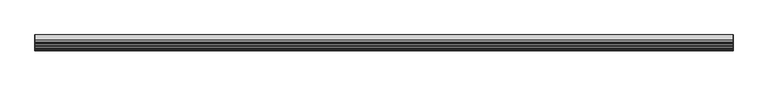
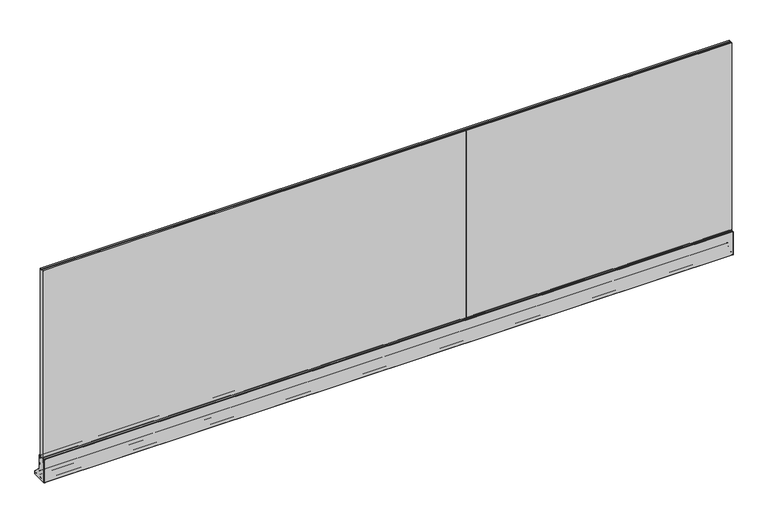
"""IFC4 building model written with IfcOpenShell, lengths in millimetres: railing geometry, Glass Rail EXL-12481 h=1100mm."""

from ifc_helpers import new_model, si_unit, point, frame, frame_2d, origin, place, context, project, spatial, polyline, circle_curve, trimmed, segment, composite_curve, outline, extrude, source, transform, mapped, element, save


def railing_b5ce3a73(model_context):
    return source(origin(), model_context, "Body", "SweptSolid", [
        extrude(outline(composite_curve([segment(trimmed(circle_curve(frame_2d((5268.7467075, 4319.5)), 0.5), [point((5268.7467075, 4320.0))], [point((5268.7467075, 4319.0))], False, "CARTESIAN"), True, "CONTINUOUS"), segment(polyline([(5268.7467075, 4319.0), (5268.7467075, 4300.0), (5267.7467075, 4299.4226497), (5271.5467075, 4276.5), (5271.5467075, 4211.0)]), True, "CONTINUOUS"), segment(trimmed(circle_curve(frame_2d((5272.5467075, 4211.0)), 1.0), [point((5271.5467075, 4211.0))], [point((5272.5467075, 4210.0))], True, "CARTESIAN"), True, "CONTINUOUS"), segment(polyline([(5272.5467075, 4210.0), (5295.5467075, 4210.0)]), True, "CONTINUOUS"), segment(trimmed(circle_curve(frame_2d((5295.5467075, 4211.0)), 1.0), [point((5295.5467075, 4210.0))], [point((5296.5467075, 4211.0))], True, "CARTESIAN"), True, "CONTINUOUS"), segment(polyline([(5296.5467075, 4211.0), (5296.5467075, 4230.0), (5300.5467075, 4319.0)]), True, "CONTINUOUS"), segment(trimmed(circle_curve(frame_2d((5300.5467075, 4319.5)), 0.5), [point((5300.5467075, 4319.0))], [point((5300.5467075, 4320.0))], False, "CARTESIAN"), True, "CONTINUOUS"), segment(polyline([(5300.5467075, 4320.0), (5304.0467075, 4320.0)]), True, "CONTINUOUS"), segment(trimmed(circle_curve(frame_2d((5304.0467075, 4319.0)), 1.0), [point((5304.0467075, 4320.0))], [point((5305.0467075, 4319.0))], False, "CARTESIAN"), True, "CONTINUOUS"), segment(polyline([(5305.0467075, 4319.0), (5305.0467075, 4240.6529004), (5308.0416822, 4237.6579257), (5308.0416822, 4233.415285), (5305.9002609, 4235.5567063)]), True, "CONTINUOUS"), segment(trimmed(circle_curve(frame_2d((5305.5467075, 4235.2031529)), 0.5), [point((5305.9002609, 4235.5567063))], [point((5305.0467075, 4235.2031529))], True, "CARTESIAN"), True, "CONTINUOUS"), segment(polyline([(5305.0467075, 4235.2031529), (5305.0467075, 4209.5)]), True, "CONTINUOUS"), segment(trimmed(circle_curve(frame_2d((5306.0467075, 4209.5)), 1.0), [point((5305.0467075, 4209.5))], [point((5306.0467075, 4208.5))], True, "CARTESIAN"), True, "CONTINUOUS"), segment(polyline([(5306.0467075, 4208.5), (5331.7498604, 4208.5)]), True, "CONTINUOUS"), segment(trimmed(circle_curve(frame_2d((5331.7498604, 4209.0)), 0.5), [point((5331.7498604, 4208.5))], [point((5332.1034138, 4209.3535534))], True, "CARTESIAN"), True, "CONTINUOUS"), segment(polyline([(5332.1034138, 4209.3535534), (5329.9619925, 4211.4949747), (5334.2046331, 4211.4949747), (5337.1996079, 4208.5), (5340.0467075, 4208.5), (5340.0467075, 4201.0)]), True, "CONTINUOUS"), segment(trimmed(circle_curve(frame_2d((5339.0467075, 4201.0)), 1.0), [point((5340.0467075, 4201.0))], [point((5339.0467075, 4200.0))], False, "CARTESIAN"), True, "CONTINUOUS"), segment(polyline([(5339.0467075, 4200.0), (5264.0467075, 4200.0)]), True, "CONTINUOUS"), segment(trimmed(circle_curve(frame_2d((5264.0467075, 4201.0)), 1.0), [point((5264.0467075, 4200.0))], [point((5263.0467075, 4201.0))], False, "CARTESIAN"), True, "CONTINUOUS"), segment(polyline([(5263.0467075, 4201.0), (5263.0467075, 4319.0)]), True, "CONTINUOUS"), segment(trimmed(circle_curve(frame_2d((5264.0467075, 4319.0)), 1.0), [point((5263.0467075, 4319.0))], [point((5264.0467075, 4320.0))], False, "CARTESIAN"), True, "CONTINUOUS"), segment(polyline([(5264.0467075, 4320.0), (5268.7467075, 4320.0)]), True, "CONTINUOUS")], self_intersect=False)), frame((13343.1337784, 0.0, 0.0), z_axis=(1.0, 0.0, 0.0), x_axis=(0.0, 1.0, 0.0)), (0.0, 0.0, 1.0), 3400.0),
        extrude(outline(composite_curve([segment(trimmed(circle_curve(frame_2d((5306.6712674, 4232.3277129)), 0.3), [point((5306.8833995, 4232.1155808))], [point((5306.3814897, 4232.4053586))], False, "CARTESIAN"), True, "CONTINUOUS"), segment(polyline([(5306.3814897, 4232.4053586), (5306.60935, 4233.2557449), (5314.0251779, 4240.6715729), (5312.7967508, 4241.9), (5305.2594925, 4241.9), (5305.2594925, 4243.5), (5313.4594925, 4243.5), (5340.0467075, 4216.912785), (5340.0467075, 4208.712785), (5338.4467075, 4208.712785), (5338.4467075, 4216.2500433), (5337.2182804, 4217.4784705), (5329.8024524, 4210.0626425), (5328.9520661, 4209.8347822)]), True, "CONTINUOUS"), segment(trimmed(circle_curve(frame_2d((5328.8744203, 4210.1245599)), 0.3), [point((5328.9520661, 4209.8347822))], [point((5328.6622883, 4210.336692))], False, "CARTESIAN"), True, "CONTINUOUS"), segment(polyline([(5328.6622883, 4210.336692), (5336.5111736, 4218.1855772), (5314.7322847, 4239.9644661), (5306.8833995, 4232.1155808)]), True, "CONTINUOUS")], self_intersect=False)), frame((13343.1337784, 0.0, 0.0), z_axis=(1.0, 0.0, 0.0), x_axis=(0.0, 1.0, 0.0)), (0.0, 0.0, 1.0), 3400.0),
        extrude(outline(composite_curve([segment(trimmed(circle_curve(frame_2d((5268.8164984, 4319.85)), 0.5), [point((5269.3164984, 4319.85))], [point((5268.8164984, 4320.35))], True, "CARTESIAN"), True, "CONTINUOUS"), segment(polyline([(5268.8164984, 4320.35), (5267.5662725, 4320.239686)]), True, "CONTINUOUS"), segment(trimmed(circle_curve(frame_2d((5267.5149202, 4320.8216792)), 0.5842544), [point((5267.5662725, 4320.239686))], [point((5267.4386719, 4321.4009367))], False, "CARTESIAN"), True, "CONTINUOUS"), segment(trimmed(circle_curve(frame_2d((5257.5935214, 4396.1944554)), 75.4386998), [point((5267.4386719, 4321.4009367))], [point((5274.4006815, 4322.6518365))], True, "CARTESIAN"), True, "CONTINUOUS"), segment(trimmed(circle_curve(frame_2d((5271.853597, 4330.9804663)), 8.7094037), [point((5274.4006815, 4322.6518365))], [point((5275.457015, 4323.0514631))], True, "CARTESIAN"), True, "CONTINUOUS"), segment(trimmed(circle_curve(frame_2d((5275.5909413, 4322.7475881)), 0.3320787), [point((5275.457015, 4323.0514631))], [point((5275.8270582, 4322.5140821))], False, "CARTESIAN"), True, "CONTINUOUS"), segment(polyline([(5275.8270582, 4322.5140821), (5274.6467075, 4321.6016227), (5274.6467075, 4213.0), (5293.6467075, 4213.0)]), True, "CONTINUOUS"), segment(trimmed(circle_curve(frame_2d((5293.6467075, 4212.0)), 1.0), [point((5293.6467075, 4213.0))], [point((5294.6467075, 4212.0))], False, "CARTESIAN"), True, "CONTINUOUS"), segment(polyline([(5294.6467075, 4212.0), (5294.6467075, 4211.0)]), True, "CONTINUOUS"), segment(trimmed(circle_curve(frame_2d((5293.6467075, 4211.0)), 1.0), [point((5294.6467075, 4211.0))], [point((5293.6467075, 4210.0))], False, "CARTESIAN"), True, "CONTINUOUS"), segment(polyline([(5293.6467075, 4210.0), (5272.5467075, 4210.0)]), True, "CONTINUOUS"), segment(trimmed(circle_curve(frame_2d((5272.5467075, 4211.0)), 1.0), [point((5272.5467075, 4210.0))], [point((5271.5467075, 4211.0))], False, "CARTESIAN"), True, "CONTINUOUS"), segment(polyline([(5271.5467075, 4211.0), (5271.5467075, 4276.5), (5267.7467075, 4299.4226497), (5268.7467075, 4300.0), (5268.7467075, 4318.4302091), (5269.3164984, 4319.0), (5269.3164984, 4319.85)]), True, "CONTINUOUS")], self_intersect=False)), frame((13343.1337784, 0.0, 0.0), z_axis=(1.0, 0.0, 0.0), x_axis=(0.0, 1.0, 0.0)), (0.0, 0.0, 1.0), 3400.0),
        extrude(outline(composite_curve([segment(trimmed(circle_curve(frame_2d((5297.1510889, 4308.5372817)), 1.5), [point((5297.1510889, 4307.0372817))], [point((5295.6510889, 4308.5372817))], False, "CARTESIAN"), True, "CONTINUOUS"), segment(polyline([(5295.6510889, 4308.5372817), (5295.6510889, 4310.9416639), (5294.7286015, 4312.0608288), (5295.737613, 4313.2849649), (5294.5475355, 4314.4750423), (5295.7546423, 4315.6821491), (5294.5475355, 4316.8892559), (5295.7546423, 4318.0963627), (5294.5537125, 4319.2972925), (5295.4211956, 4320.227594)]), True, "CONTINUOUS"), segment(trimmed(circle_curve(frame_2d((5294.566897, 4320.7517158)), 1.0022624), [point((5295.4211956, 4320.227594))], [point((5295.2782388, 4321.4577771))], True, "CARTESIAN"), True, "CONTINUOUS"), segment(polyline([(5295.2782388, 4321.4577771), (5294.1705291, 4322.3140821)]), True, "CONTINUOUS"), segment(trimmed(circle_curve(frame_2d((5294.406646, 4322.5475881)), 0.3320787), [point((5294.1705291, 4322.3140821))], [point((5294.5405723, 4322.8514631))], False, "CARTESIAN"), True, "CONTINUOUS"), segment(trimmed(circle_curve(frame_2d((5298.1439902, 4330.7804663)), 8.7094037), [point((5294.5405723, 4322.8514631))], [point((5295.5969058, 4322.4518365))], True, "CARTESIAN"), True, "CONTINUOUS"), segment(trimmed(circle_curve(frame_2d((5310.4153561, 4379.3319631)), 58.7786974), [point((5295.5969058, 4322.4518365))], [point((5301.8020344, 4321.1877806))], True, "CARTESIAN"), True, "CONTINUOUS"), segment(trimmed(circle_curve(frame_2d((5301.7167165, 4320.6118425)), 0.5822232), [point((5301.8020344, 4321.1877806))], [point((5301.6655427, 4320.0318726))], False, "CARTESIAN"), True, "CONTINUOUS"), segment(polyline([(5301.6655427, 4320.0318726), (5300.3267652, 4320.15)]), True, "CONTINUOUS"), segment(trimmed(circle_curve(frame_2d((5300.3267652, 4319.65)), 0.5), [point((5300.3267652, 4320.15))], [point((5299.8267652, 4319.65))], True, "CARTESIAN"), True, "CONTINUOUS"), segment(polyline([(5299.8267652, 4319.65), (5299.8267652, 4318.8630833), (5300.3965561, 4318.2932925), (5300.3965561, 4310.3051746), (5299.0517659, 4307.0372817), (5297.1510889, 4307.0372817)]), True, "CONTINUOUS")], self_intersect=False)), frame((13343.1337784, 0.0, 0.0), z_axis=(1.0, 0.0, 0.0), x_axis=(0.0, 1.0, 0.0)), (0.0, 0.0, 1.0), 3400.0),
        extrude(outline(composite_curve([segment(trimmed(circle_curve(frame_2d((5295.3584581, 4289.5)), 0.5), [point((5294.8584581, 4289.5))], [point((5295.3584581, 4290.0))], False, "CARTESIAN"), True, "CONTINUOUS"), segment(polyline([(5295.3584581, 4290.0), (5298.7203601, 4290.0)]), True, "CONTINUOUS"), segment(trimmed(circle_curve(frame_2d((5298.7203601, 4289.5)), 0.5), [point((5298.7203601, 4290.0))], [point((5299.2198558, 4289.4775508))], False, "CARTESIAN"), True, "CONTINUOUS"), segment(polyline([(5299.2198558, 4289.4775508), (5296.3219785, 4224.9997789), (5295.3584581, 4224.9997789)]), True, "CONTINUOUS"), segment(trimmed(circle_curve(frame_2d((5295.3584581, 4225.4997789)), 0.5), [point((5295.3584581, 4224.9997789))], [point((5294.8584581, 4225.4997789))], False, "CARTESIAN"), True, "CONTINUOUS"), segment(polyline([(5294.8584581, 4225.4997789), (5294.8584581, 4289.5)]), True, "CONTINUOUS")], self_intersect=False)), frame((13343.1337784, 0.0, 0.0), z_axis=(1.0, 0.0, 0.0), x_axis=(0.0, 1.0, 0.0)), (0.0, 0.0, 1.0), 3400.0),
        extrude(outline(polyline([(5295.3967075, 4213.890625), (5294.5060825, 4213.0), (5286.4329575, 4213.0), (5285.5423325, 4213.890625), (5284.4910825, 4213.890625), (5283.6004575, 4213.0), (5275.5273325, 4213.0), (5274.6367075, 4213.890625), (5274.6367075, 5299.109375), (5275.5273325, 5300.0), (5283.6004575, 5300.0), (5284.4910825, 5299.109375), (5285.5423325, 5299.109375), (5286.4329575, 5300.0), (5294.5060825, 5300.0), (5295.3967075, 5299.109375), (5295.3967075, 4213.890625)])), frame((13343.1337784, 0.0, 0.0), z_axis=(1.0, 0.0, 0.0), x_axis=(0.0, 1.0, 0.0)), (0.0, 0.0, 1.0), 3400.0),
        extrude(outline(polyline([(5283.6304575, 5300.0), (5286.4629575, 5300.0), (5285.5723325, 5299.109375), (5284.5210825, 5299.109375), (5283.6304575, 5300.0)])), frame((13343.1337784, 0.0, 0.0), z_axis=(1.0, 0.0, 0.0), x_axis=(0.0, 1.0, 0.0)), (0.0, 0.0, 1.0), 3400.0),
        extrude(outline(polyline([(5295.3967075, 4213.8909545), (5294.5057529, 4213.0), (5275.527662, 4213.0), (5274.6367075, 4213.8909545), (5274.6367075, 5299.1090455), (5275.527662, 5300.0), (5294.5057529, 5300.0), (5295.3967075, 5299.1090455), (5295.3967075, 4213.8909545)])), frame((15432.6546701, 0.0, 0.0), z_axis=(1.0, 0.0, 0.0), x_axis=(0.0, 1.0, 0.0)), (0.0, 0.0, 1.0), 0.9582165),
        extrude(outline(composite_curve([segment(polyline([(5305.0467075, 4243.5), (5313.4567075, 4243.5), (5340.0467075, 4216.91), (5340.0467075, 4200.0), (5264.0467075, 4200.0)]), True, "CONTINUOUS"), segment(trimmed(circle_curve(frame_2d((5264.0467075, 4201.0)), 1.0), [point((5264.0467075, 4200.0))], [point((5263.0467075, 4201.0))], False, "CARTESIAN"), True, "CONTINUOUS"), segment(polyline([(5263.0467075, 4201.0), (5263.0467075, 4319.0)]), True, "CONTINUOUS"), segment(trimmed(circle_curve(frame_2d((5264.0467075, 4319.0)), 1.0), [point((5263.0467075, 4319.0))], [point((5264.0467075, 4320.0))], False, "CARTESIAN"), True, "CONTINUOUS"), segment(polyline([(5264.0467075, 4320.0), (5304.0467075, 4320.0)]), True, "CONTINUOUS"), segment(trimmed(circle_curve(frame_2d((5304.0467075, 4319.0)), 1.0), [point((5304.0467075, 4320.0))], [point((5305.0467075, 4319.0))], False, "CARTESIAN"), True, "CONTINUOUS"), segment(polyline([(5305.0467075, 4319.0), (5305.0467075, 4243.5)]), True, "CONTINUOUS")], self_intersect=False)), frame((16743.1337784, 0.0, 0.0), z_axis=(1.0, 0.0, 0.0), x_axis=(0.0, 1.0, 0.0)), (0.0, 0.0, 1.0), 1.0),
        extrude(outline(composite_curve([segment(polyline([(5305.0467075, 4243.5), (5313.4567075, 4243.5), (5340.0467075, 4216.91), (5340.0467075, 4200.0), (5264.0467075, 4200.0)]), True, "CONTINUOUS"), segment(trimmed(circle_curve(frame_2d((5264.0467075, 4201.0)), 1.0), [point((5264.0467075, 4200.0))], [point((5263.0467075, 4201.0))], False, "CARTESIAN"), True, "CONTINUOUS"), segment(polyline([(5263.0467075, 4201.0), (5263.0467075, 4319.0)]), True, "CONTINUOUS"), segment(trimmed(circle_curve(frame_2d((5264.0467075, 4319.0)), 1.0), [point((5263.0467075, 4319.0))], [point((5264.0467075, 4320.0))], False, "CARTESIAN"), True, "CONTINUOUS"), segment(polyline([(5264.0467075, 4320.0), (5304.0467075, 4320.0)]), True, "CONTINUOUS"), segment(trimmed(circle_curve(frame_2d((5304.0467075, 4319.0)), 1.0), [point((5304.0467075, 4320.0))], [point((5305.0467075, 4319.0))], False, "CARTESIAN"), True, "CONTINUOUS"), segment(polyline([(5305.0467075, 4319.0), (5305.0467075, 4243.5)]), True, "CONTINUOUS")], self_intersect=False)), frame((13342.1337784, 0.0, 0.0), z_axis=(1.0, 0.0, 0.0), x_axis=(0.0, 1.0, 0.0)), (0.0, 0.0, 1.0), 1.0),
    ])


if __name__ == "__main__":
    model = new_model("IFC4")
    model_context = context("Model", 3, world=origin())
    ifc_project = project(units=[si_unit("LENGTHUNIT", "METRE", prefix="MILLI")], contexts=[model_context])
    site = spatial("IfcSite", under=ifc_project)
    building = spatial("IfcBuilding", under=site)
    placement = place(None, origin())
    railing_shape = railing_b5ce3a73(model_context)
    element("IfcRailing", 1, ObjectType="Glass Rail EXL-12481 h=1100mm", at=placement, inside=building, context=model_context, shape_type="MappedRepresentation", body=[
        mapped(railing_shape, transform((0.0, 0.0, 0.0), x_axis=(1.0, 0.0, 0.0), y_axis=(0.0, 1.0, 0.0), z_axis=(0.0, 0.0, 1.0))),
    ])
    save(model, "model.ifc")
